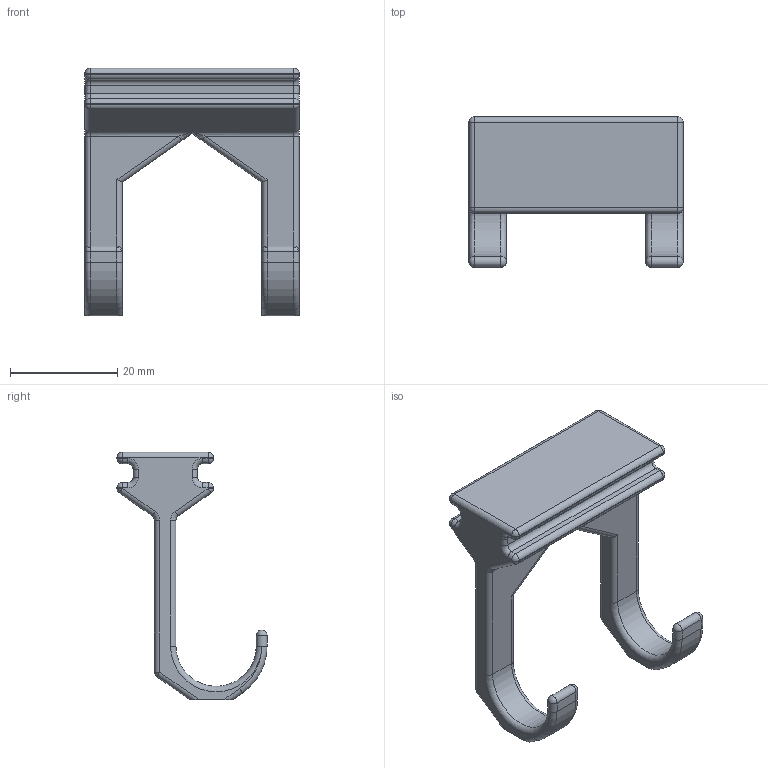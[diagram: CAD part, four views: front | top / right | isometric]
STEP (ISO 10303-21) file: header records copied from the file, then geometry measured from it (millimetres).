
FILE_DESCRIPTION(/* description */ ('','CAx-IF Rec.Pracs.---Representation and Presentation of Product Manufacturing Information (PMI)---4.0---2014-10-13'),/* implementation_level */ '2;1');
FILE_NAME(/* name */ 'Razor Hanger v2.step',/* time_stamp */ '2024-12-05T18:50:58+01:00',/* author */ (''),/* organization */ (''),/* preprocessor_version */ 'ST-DEVELOPER v20',/* originating_system */ 'Autodesk Translation Framework v13.20.0.188',/* authorisation */ '');
FILE_SCHEMA (('AP242_MANAGED_MODEL_BASED_3D_ENGINEERING_MIM_LF { 1 0 10303 442 1 1 4 }'));
Length unit declared in the file: millimetre
Products named in the file (1): Razor Hanger
Bounding box: 40 x 28 x 46.2 mm (x, y, z)
Volume: 9557.7 mm3; surface area: 4992.2 mm2
Topology: 1 solids, 1 shells, 159 faces, 357 edges, 192 vertices
Faces by surface type: cylinder 78, plane 33, sphere 24, torus 20, bspline 4
Entity records: 4438 total; most frequent: CARTESIAN_POINT 843, DIRECTION 835, ORIENTED_EDGE 698, EDGE_CURVE 349, AXIS2_PLACEMENT_3D 336, VERTEX_POINT 192, LINE 163, VECTOR 163
